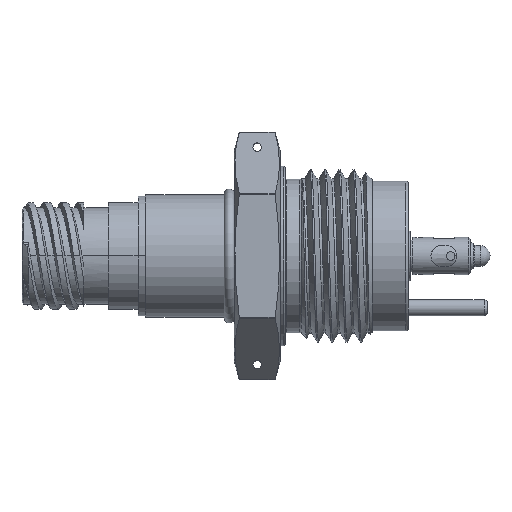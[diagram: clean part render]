
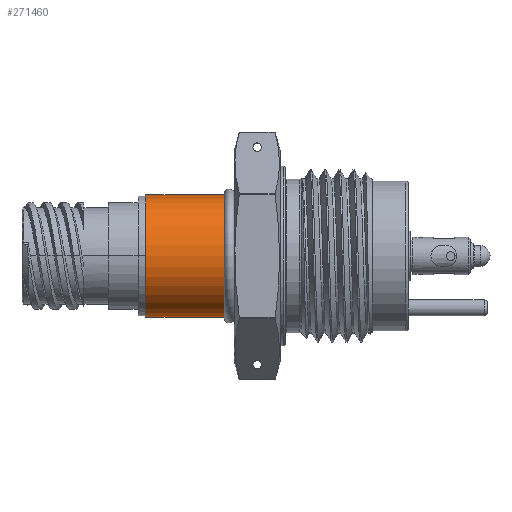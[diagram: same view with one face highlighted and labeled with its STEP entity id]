
A CAD part, top view. The second image highlights one B-rep face of the part: STEP entity #271460.
In plain terms, the highlighted cylindrical face has radius 9.017 mm (diameter 18.034 mm), a partial arc.
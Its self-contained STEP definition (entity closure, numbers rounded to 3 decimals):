
#63840=CARTESIAN_POINT('',(24.088,9.017,0.));
#63850=DIRECTION('',(-1.,0.,0.));
#63860=VECTOR('',#63850,1.);
#63870=LINE('',#63840,#63860);
#63880=CARTESIAN_POINT('',(29.868,9.017,0.));
#63890=VERTEX_POINT('',#63880);
#63900=CARTESIAN_POINT('',(18.313,9.017,0.));
#63910=VERTEX_POINT('',#63900);
#63920=EDGE_CURVE('',#63890,#63910,#63870,.T.);
#63940=CARTESIAN_POINT('',(18.313,0.,0.));
#63950=DIRECTION('',(1.,0.,0.));
#63960=DIRECTION('',(0.,1.,0.));
#63970=AXIS2_PLACEMENT_3D('',#63940,#63950,#63960);
#63980=CIRCLE('',#63970,9.017);
#63990=CARTESIAN_POINT('',(18.313,-9.017,
0.));
#64000=VERTEX_POINT('',#63990);
#64030=CARTESIAN_POINT('',(24.088,-9.017,
0.));
#64040=DIRECTION('',(-1.,0.,0.));
#64050=VECTOR('',#64040,1.);
#64060=LINE('',#64030,#64050);
#64070=CARTESIAN_POINT('',(29.868,-9.017,
0.));
#64080=VERTEX_POINT('',#64070);
#64090=EDGE_CURVE('',#64080,#64000,#64060,.T.);
#64110=CARTESIAN_POINT('',(29.868,0.,0.));
#64120=DIRECTION('',(1.,0.,0.));
#64130=DIRECTION('',(0.,1.,0.));
#64140=AXIS2_PLACEMENT_3D('',#64110,#64120,#64130);
#64150=CIRCLE('',#64140,9.017);
#64970=EDGE_CURVE('',#63910,#64000,#63980,.T.);
#77110=EDGE_CURVE('',#63890,#64080,#64150,.T.);
#271350=CARTESIAN_POINT('',(24.088,0.,0.));
#271360=DIRECTION('',(-1.,0.,0.));
#271370=DIRECTION('',(0.,1.,0.));
#271380=AXIS2_PLACEMENT_3D('',#271350,#271360,#271370);
#271390=CYLINDRICAL_SURFACE('',#271380,9.017);
#271400=ORIENTED_EDGE('',*,*,#77110,.F.);
#271410=ORIENTED_EDGE('',*,*,#64090,.F.);
#271420=ORIENTED_EDGE('',*,*,#64970,.T.);
#271430=ORIENTED_EDGE('',*,*,#63920,.T.);
#271440=EDGE_LOOP('',(#271430,#271420,#271410,#271400));
#271450=FACE_OUTER_BOUND('',#271440,.T.);
#271460=ADVANCED_FACE('',(#271450),#271390,.T.);
